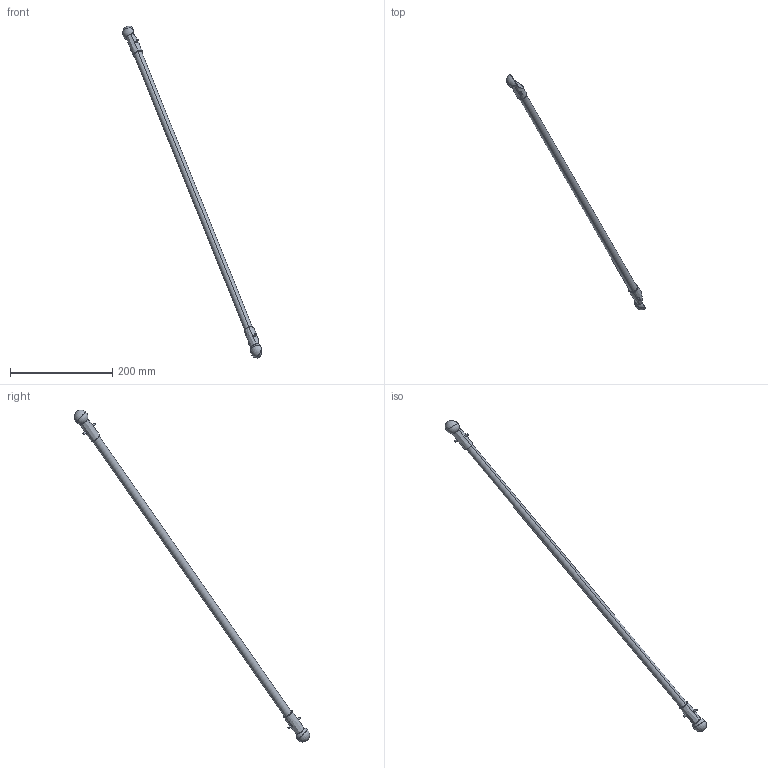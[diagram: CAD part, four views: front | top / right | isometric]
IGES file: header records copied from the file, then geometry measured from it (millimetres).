
Start section: SolidWorks IGES file using analytic representation for surfaces
Global section: file name: C:\Users\sedahar1\OneDrive - ABB\Documents\GPI local\Work Items\642287\IRB360_8-1130-STD-4D\IRB360_8-1130-STD-4D_rev03_LA3_2_CAD.IGS; native system: SolidWorks 2024; preprocessor: SolidWorks 2024; author: SEDAHAR1; date: 251103.101547; units: millimetre
Bounding box: 272.74 x 461.16 x 650.94 mm (x, y, z)
Surface area: 44609 mm2 (no closed solid volume)
Topology: 0 solids, 0 shells, 41 faces, 859 edges, 859 vertices
Faces by surface type: revolution 31, bspline 10
